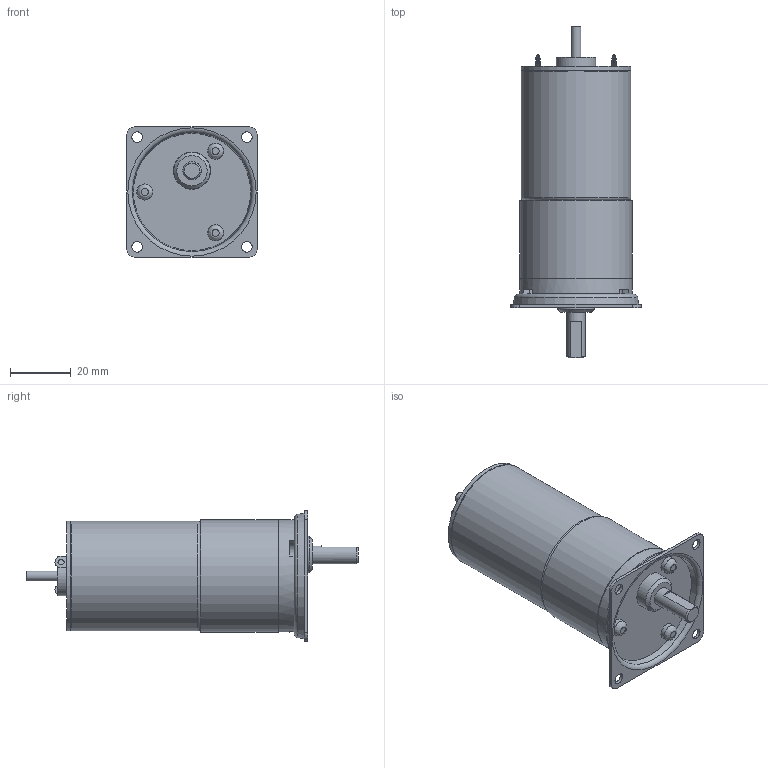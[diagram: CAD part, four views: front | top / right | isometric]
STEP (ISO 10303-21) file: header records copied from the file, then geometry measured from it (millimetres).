
FILE_DESCRIPTION((''),'2;1');
FILE_NAME('C:\Documents and Settings\SSEGAWA\デスクトップ\TP-3644L-PKS-5.STP','2013-07-26T19:10:54',('SSEGAWA'),(''),'Autodesk Inventor 2010','Autodesk Inventor 2010','');
FILE_SCHEMA(('CONFIG_CONTROL_DESIGN'));
Length unit declared in the file: millimetre
Products named in the file (1): tp_3644l_pks_5_Shrinkwrap_1
Bounding box: 43 x 109 x 43 mm (x, y, z)
Volume: 81263 mm3; surface area: 15715.2 mm2
Topology: 11 solids, 11 shells, 116 faces, 249 edges, 166 vertices
Faces by surface type: plane 54, cylinder 27, bspline 27, cone 4, torus 4
Full cylindrical faces by diameter (mm): 3 x1, 3.175 x1, 3.5 x1, 5.3 x3, 6 x1, 12 x1, 12.2 x1, 13 x1, 35.6 x1, 36 x2, 36.6 x1, 37 x2
Entity records: 3298 total; most frequent: CARTESIAN_POINT 968, DIRECTION 451, ORIENTED_EDGE 340, AXIS2_PLACEMENT_3D 193, EDGE_LOOP 189, EDGE_CURVE 170, VERTEX_POINT 137, STYLED_ITEM 127
